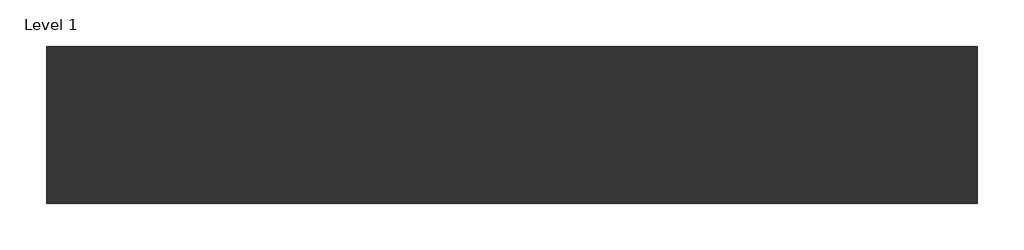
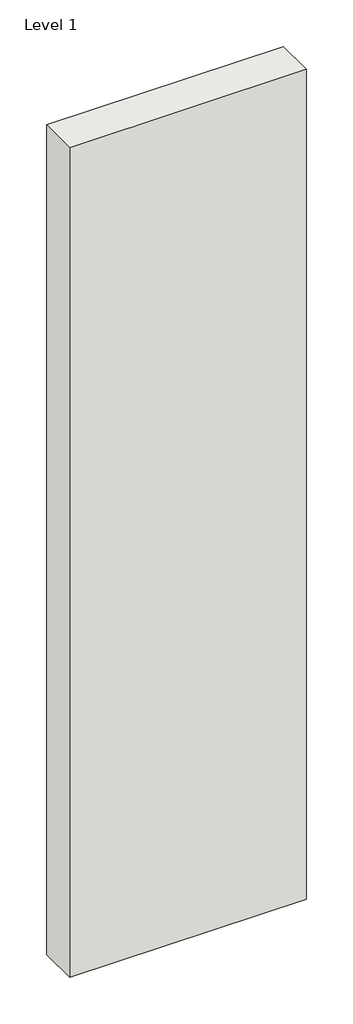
# One storey: 1 wall.
"""IFC4 building model written with IfcOpenShell, lengths in millimetres."""

from ifc_helpers import new_model, si_unit, origin, origin_with_axes, place, context, project, spatial, polyline, outline, extrude, element, save

model = new_model("IFC4")

# Units and contexts
model_context = context("Model", 3, world=origin())
ifc_project = project(units=[si_unit("LENGTHUNIT", "METRE", prefix="MILLI")], contexts=[model_context])

# Site, building, storey
site = spatial("IfcSite", under=ifc_project)
building = spatial("IfcBuilding", under=site)
storey = spatial("IfcBuildingStorey", under=building, Name="Level 1", Elevation=0.0)

# Wall
placement = place(None, origin())
element("IfcWall", 1, ObjectType="Tabique Doble – Placo® 203(70) 2xBA13 + 70LM + BA13 + 70LM + 2xBA13 c/600 - ≥ 59,1 dBA", at=placement, inside=storey, context=model_context, shape_type="SweptSolid", body=[
    extrude(outline(polyline([(-28676.4711674, -82605.3970389), (-29876.4711674, -82605.3970389), (-29876.4711674, -82402.8970389), (-28676.4711674, -82402.8970389), (-28676.4711674, -82605.3970389)])), origin_with_axes(), (0.0, 0.0, 1.0), 4450.0),
])

save(model, "model.ifc")
